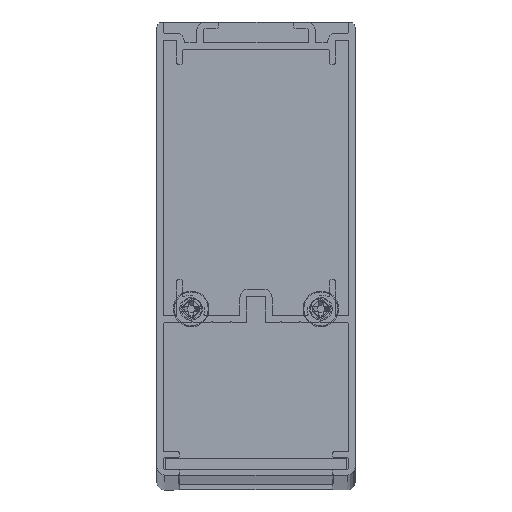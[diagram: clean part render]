
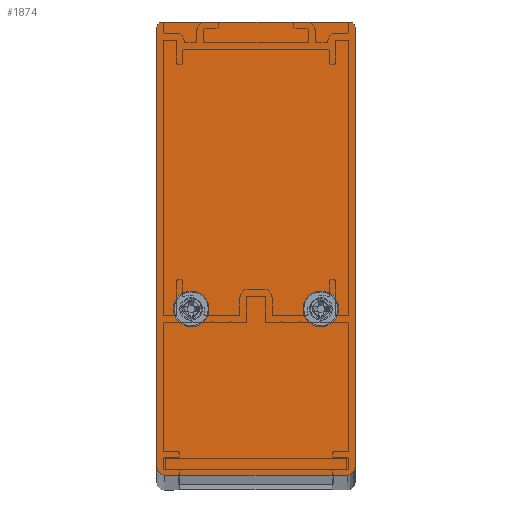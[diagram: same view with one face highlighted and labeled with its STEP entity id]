
A CAD part, top view. The second image highlights one B-rep face of the part: STEP entity #1874.
In plain terms, the highlighted planar face has unit normal (0, 0, 1).
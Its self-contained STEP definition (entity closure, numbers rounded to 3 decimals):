
#1874=ADVANCED_FACE('',(#3485,#3487,#3489),#3491,.T.);
#3485=FACE_BOUND('',#3486,.T.);
#3486=EDGE_LOOP('',(#5166,#5167,#5168,#5169,#5170,#5171,#5172,#5173));
#3487=FACE_BOUND('',#3488,.T.);
#3488=EDGE_LOOP('',(#5174));
#3489=FACE_BOUND('',#3490,.T.);
#3490=EDGE_LOOP('',(#5175));
#3491=PLANE('',#3492);
#3492=AXIS2_PLACEMENT_3D('',#3493,#3494,#3495);
#3493=CARTESIAN_POINT('',(0.,0.,751.));
#3494=DIRECTION('',(0.,0.,1.));
#3495=DIRECTION('',(1.,0.,0.));
#5166=ORIENTED_EDGE('',*,*,#5946,.T.);
#5167=ORIENTED_EDGE('',*,*,#5947,.T.);
#5168=ORIENTED_EDGE('',*,*,#5948,.T.);
#5169=ORIENTED_EDGE('',*,*,#5949,.T.);
#5170=ORIENTED_EDGE('',*,*,#5950,.T.);
#5171=ORIENTED_EDGE('',*,*,#5951,.T.);
#5172=ORIENTED_EDGE('',*,*,#5952,.T.);
#5173=ORIENTED_EDGE('',*,*,#5953,.T.);
#5174=ORIENTED_EDGE('',*,*,#5954,.T.);
#5175=ORIENTED_EDGE('',*,*,#5955,.T.);
#5946=EDGE_CURVE('',#6965,#6966,#6967,.T.);
#5947=EDGE_CURVE('',#6966,#6968,#6969,.T.);
#5948=EDGE_CURVE('',#6968,#6970,#6971,.T.);
#5949=EDGE_CURVE('',#6970,#6972,#6973,.T.);
#5950=EDGE_CURVE('',#6972,#6974,#6975,.T.);
#5951=EDGE_CURVE('',#6974,#6976,#6977,.T.);
#5952=EDGE_CURVE('',#6976,#6978,#6979,.T.);
#5953=EDGE_CURVE('',#6978,#6965,#6980,.T.);
#5954=EDGE_CURVE('',#6981,#6981,#6982,.F.);
#5955=EDGE_CURVE('',#6983,#6983,#6984,.F.);
#6965=VERTEX_POINT('',#9349);
#6966=VERTEX_POINT('',#9350);
#6967=LINE('',#9351,#9352);
#6968=VERTEX_POINT('',#9354);
#6969=CIRCLE('',#9355,0.9);
#6970=VERTEX_POINT('',#9359);
#6971=LINE('',#9360,#9361);
#6972=VERTEX_POINT('',#9363);
#6973=CIRCLE('',#9364,0.9);
#6974=VERTEX_POINT('',#9368);
#6975=LINE('',#9369,#9370);
#6976=VERTEX_POINT('',#9372);
#6977=CIRCLE('',#9373,1.35);
#6978=VERTEX_POINT('',#9377);
#6979=LINE('',#9378,#9379);
#6980=CIRCLE('',#9381,1.35);
#6981=VERTEX_POINT('',#9385);
#6982=CIRCLE('',#9386,3.);
#6983=VERTEX_POINT('',#9390);
#6984=CIRCLE('',#9391,3.);
#9349=CARTESIAN_POINT('',(17.5,-73.75,751.));
#9350=CARTESIAN_POINT('',(17.5,4.,751.));
#9351=CARTESIAN_POINT('',(17.5,-73.75,751.));
#9352=VECTOR('',#9353,1.);
#9353=DIRECTION('',(0.,1.,0.));
#9354=CARTESIAN_POINT('',(16.6,4.9,751.));
#9355=AXIS2_PLACEMENT_3D('',#9356,#9357,#9358);
#9356=CARTESIAN_POINT('',(16.6,4.,751.));
#9357=DIRECTION('',(-0.,0.,1.));
#9358=DIRECTION('',(1.,0.,0.));
#9359=CARTESIAN_POINT('',(-16.6,4.9,751.));
#9360=CARTESIAN_POINT('',(16.6,4.9,751.));
#9361=VECTOR('',#9362,1.);
#9362=DIRECTION('',(-1.,0.,0.));
#9363=CARTESIAN_POINT('',(-17.5,4.,751.));
#9364=AXIS2_PLACEMENT_3D('',#9365,#9366,#9367);
#9365=CARTESIAN_POINT('',(-16.6,4.,751.));
#9366=DIRECTION('',(0.,0.,1.));
#9367=DIRECTION('',(0.,1.,0.));
#9368=CARTESIAN_POINT('',(-17.5,-73.75,751.));
#9369=CARTESIAN_POINT('',(-17.5,4.,751.));
#9370=VECTOR('',#9371,1.);
#9371=DIRECTION('',(0.,-1.,0.));
#9372=CARTESIAN_POINT('',(-16.15,-75.1,751.));
#9373=AXIS2_PLACEMENT_3D('',#9374,#9375,#9376);
#9374=CARTESIAN_POINT('',(-16.15,-73.75,751.));
#9375=DIRECTION('',(0.,0.,1.));
#9376=DIRECTION('',(-1.,0.,0.));
#9377=CARTESIAN_POINT('',(16.15,-75.1,751.));
#9378=CARTESIAN_POINT('',(-16.15,-75.1,751.));
#9379=VECTOR('',#9380,1.);
#9380=DIRECTION('',(1.,0.,0.));
#9381=AXIS2_PLACEMENT_3D('',#9382,#9383,#9384);
#9382=CARTESIAN_POINT('',(16.15,-73.75,751.));
#9383=DIRECTION('',(0.,-0.,1.));
#9384=DIRECTION('',(0.,-1.,0.));
#9385=CARTESIAN_POINT('',(8.45,-45.75,751.));
#9386=AXIS2_PLACEMENT_3D('',#9387,#9388,#9389);
#9387=CARTESIAN_POINT('',(11.45,-45.75,751.));
#9388=DIRECTION('',(0.,0.,1.));
#9389=DIRECTION('',(-1.,0.,0.));
#9390=CARTESIAN_POINT('',(-8.45,-45.75,751.));
#9391=AXIS2_PLACEMENT_3D('',#9392,#9393,#9394);
#9392=CARTESIAN_POINT('',(-11.45,-45.75,751.));
#9393=DIRECTION('',(0.,0.,1.));
#9394=DIRECTION('',(1.,0.,0.));
